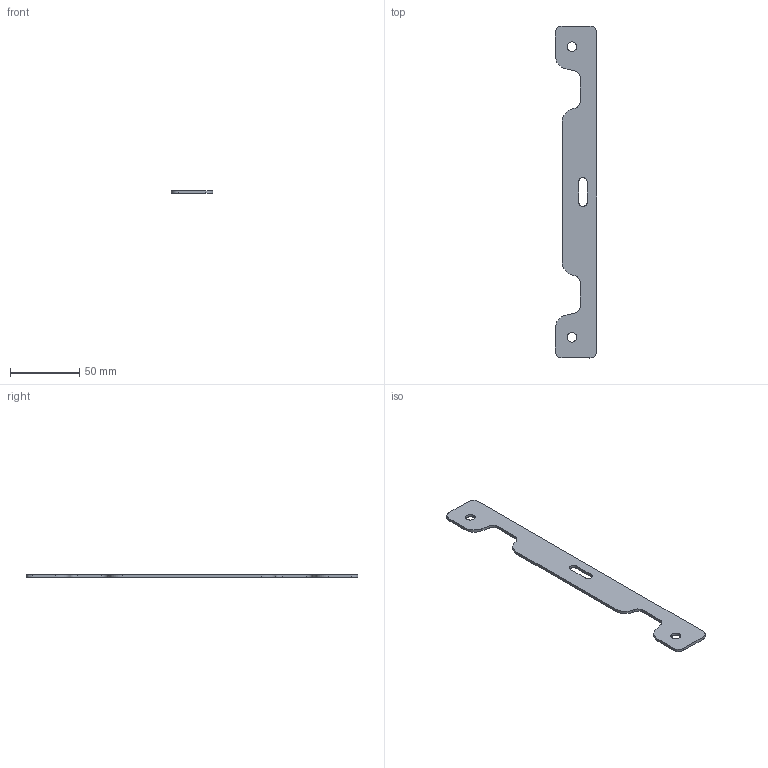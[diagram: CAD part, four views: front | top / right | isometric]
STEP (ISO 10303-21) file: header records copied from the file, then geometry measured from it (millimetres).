
FILE_DESCRIPTION(('CATIA V5 STEP Exchange'),'2;1');
FILE_NAME('E:\吉利商用车G3\10 2D\钣金单件图纸\SHT0015437-高配底支架补强板\SHT0015437.stp','2023-02-10T07:22:21+00:00',('none'),('none'),'CATIA Version 5 Release 20 GA (IN-10)','CATIA V5 STEP AP214','none');
FILE_SCHEMA(('AUTOMOTIVE_DESIGN { 1 0 10303 214 1 1 1 1 }'));
Length unit declared in the file: millimetre
Products named in the file (1): SHT0015437
Bounding box: 30 x 240 x 2 mm (x, y, z)
Volume: 10623.2 mm3; surface area: 11940.5 mm2
Topology: 1 solids, 1 shells, 34 faces, 96 edges, 64 vertices
Faces by surface type: cylinder 18, plane 16
Entity records: 1170 total; most frequent: CARTESIAN_POINT 267, ORIENTED_EDGE 192, DIRECTION 156, EDGE_CURVE 96, AXIS2_PLACEMENT_3D 65, VERTEX_POINT 64, VECTOR 60, LINE 60
